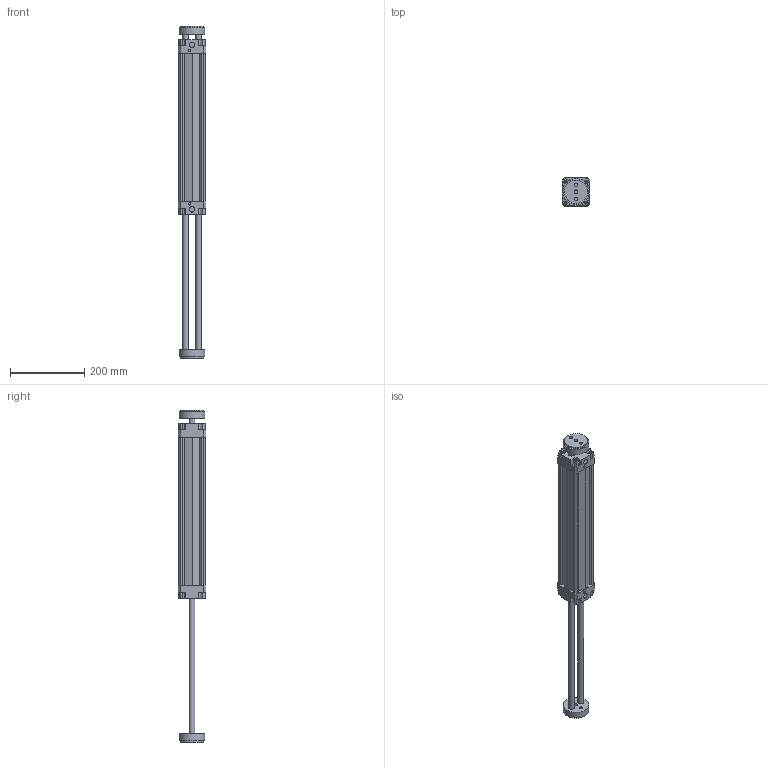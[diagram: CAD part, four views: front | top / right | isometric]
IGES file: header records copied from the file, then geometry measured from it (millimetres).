
Global section: file name: 132#_063_0350_06; native system: Autodesk Inventor 2014; preprocessor: unknown; author: A. Manieri; date: 20161006.160039; units: millimetre
Bounding box: 75 x 75 x 895 mm (x, y, z)
Volume: 1467011.9 mm3; surface area: 376820.8 mm2
Topology: 2 solids, 2 shells, 190 faces, 518 edges, 354 vertices
Faces by surface type: bspline 190
